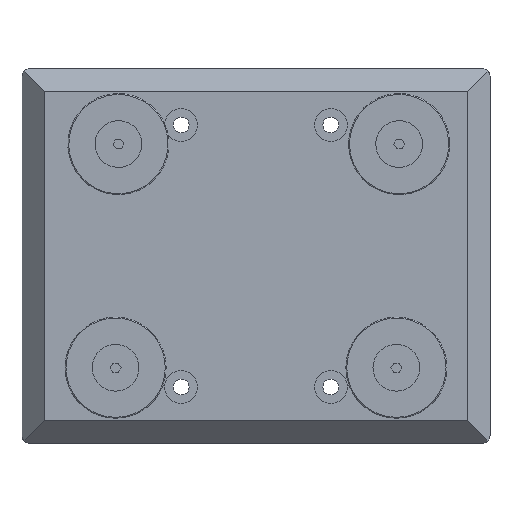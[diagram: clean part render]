
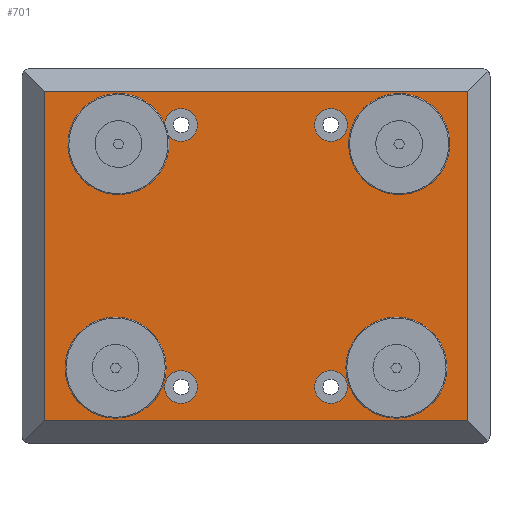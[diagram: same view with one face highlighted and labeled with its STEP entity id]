
A CAD part, front view. The second image highlights one B-rep face of the part: STEP entity #701.
In plain terms, the highlighted planar face has unit normal (0, -1, 0).
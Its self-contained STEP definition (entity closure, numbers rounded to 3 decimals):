
#701=ADVANCED_FACE('',(#1057,#1058,#1059,#1060,#1061,#1062,#1063,#1064,#1065),#1066,.F.);
#1057=FACE_BOUND('',#1727,.T.);
#1058=FACE_BOUND('',#1728,.T.);
#1059=FACE_BOUND('',#1729,.T.);
#1060=FACE_BOUND('',#1730,.T.);
#1061=FACE_BOUND('',#1731,.T.);
#1062=FACE_BOUND('',#1732,.T.);
#1063=FACE_BOUND('',#1733,.T.);
#1064=FACE_BOUND('',#1734,.T.);
#1065=FACE_OUTER_BOUND('',#1735,.T.);
#1066=PLANE('',#1736);
#1727=EDGE_LOOP('',(#2598));
#1728=EDGE_LOOP('',(#2599));
#1729=EDGE_LOOP('',(#2600));
#1730=EDGE_LOOP('',(#2601));
#1731=EDGE_LOOP('',(#2602));
#1732=EDGE_LOOP('',(#2603));
#1733=EDGE_LOOP('',(#2604));
#1734=EDGE_LOOP('',(#2605));
#1735=EDGE_LOOP('',(#2606,#2607,#2608,#2609));
#1736=AXIS2_PLACEMENT_3D('',#2610,#2611,#2612);
#2598=ORIENTED_EDGE('',*,*,#4206,.T.);
#2599=ORIENTED_EDGE('',*,*,#4210,.T.);
#2600=ORIENTED_EDGE('',*,*,#4213,.T.);
#2601=ORIENTED_EDGE('',*,*,#4216,.T.);
#2602=ORIENTED_EDGE('',*,*,#4221,.T.);
#2603=ORIENTED_EDGE('',*,*,#4126,.T.);
#2604=ORIENTED_EDGE('',*,*,#4127,.T.);
#2605=ORIENTED_EDGE('',*,*,#4204,.T.);
#2606=ORIENTED_EDGE('',*,*,#4199,.T.);
#2607=ORIENTED_EDGE('',*,*,#4194,.T.);
#2608=ORIENTED_EDGE('',*,*,#4217,.F.);
#2609=ORIENTED_EDGE('',*,*,#4197,.T.);
#2610=CARTESIAN_POINT('',(121.0,-22.0,96.0));
#2611=DIRECTION('',(0.,1.0,0.));
#2612=DIRECTION('',(1.0,0.,0.));
#4126=EDGE_CURVE('',#4646,#4646,#4647,.T.);
#4127=EDGE_CURVE('',#4648,#4648,#4649,.T.);
#4194=EDGE_CURVE('',#4764,#4762,#4765,.T.);
#4197=EDGE_CURVE('',#4769,#4767,#4770,.T.);
#4199=EDGE_CURVE('',#4767,#4764,#4772,.T.);
#4204=EDGE_CURVE('',#4779,#4779,#4780,.T.);
#4206=EDGE_CURVE('',#4783,#4783,#4784,.T.);
#4210=EDGE_CURVE('',#4791,#4791,#4792,.T.);
#4213=EDGE_CURVE('',#4797,#4797,#4798,.T.);
#4216=EDGE_CURVE('',#4803,#4803,#4804,.T.);
#4217=EDGE_CURVE('',#4769,#4762,#4805,.T.);
#4221=EDGE_CURVE('',#4810,#4810,#4811,.T.);
#4646=VERTEX_POINT('',#5524);
#4647=CIRCLE('',#5525,8.75);
#4648=VERTEX_POINT('',#5526);
#4649=CIRCLE('',#5527,8.75);
#4762=VERTEX_POINT('',#5678);
#4764=VERTEX_POINT('',#5681);
#4765=LINE('',#5682,#5683);
#4767=VERTEX_POINT('',#5686);
#4769=VERTEX_POINT('',#5689);
#4770=LINE('',#5690,#5691);
#4772=LINE('',#5694,#5695);
#4779=VERTEX_POINT('',#5704);
#4780=CIRCLE('',#5705,8.75);
#4783=VERTEX_POINT('',#5708);
#4784=CIRCLE('',#5709,7.0);
#4791=VERTEX_POINT('',#5716);
#4792=CIRCLE('',#5717,7.0);
#4797=VERTEX_POINT('',#5722);
#4798=CIRCLE('',#5723,7.0);
#4803=VERTEX_POINT('',#5728);
#4804=CIRCLE('',#5729,7.0);
#4805=LINE('',#5730,#5731);
#4810=VERTEX_POINT('',#5738);
#4811=CIRCLE('',#5739,8.75);
#5524=CARTESIAN_POINT('',(40.0,-22.0,-78.75));
#5525=AXIS2_PLACEMENT_3D('',#7222,#7223,#7224);
#5526=CARTESIAN_POINT('',(40.0,-22.0,61.25));
#5527=AXIS2_PLACEMENT_3D('',#7225,#7226,#7227);
#5678=CARTESIAN_POINT('',(113.0,-22.0,88.0));
#5681=CARTESIAN_POINT('',(113.0,-22.,-88.0));
#5682=CARTESIAN_POINT('',(113.0,-22.0,88.0));
#5683=VECTOR('',#7348,1.0);
#5686=CARTESIAN_POINT('',(-113.0,-22.,-88.0));
#5689=CARTESIAN_POINT('',(-113.0,-22.,88.0));
#5690=CARTESIAN_POINT('',(-113.0,-22.0,-88.0));
#5691=VECTOR('',#7351,1.0);
#5694=CARTESIAN_POINT('',(-218.415,-22.,-88.0));
#5695=VECTOR('',#7353,1.0);
#5704=CARTESIAN_POINT('',(-40.0,-22.0,61.25));
#5705=AXIS2_PLACEMENT_3D('',#7362,#7363,#7364);
#5708=CARTESIAN_POINT('',(75.0,-22.0,52.685));
#5709=AXIS2_PLACEMENT_3D('',#7368,#7369,#7370);
#5716=CARTESIAN_POINT('',(75.0,-22.0,-66.685));
#5717=AXIS2_PLACEMENT_3D('',#7380,#7381,#7382);
#5722=CARTESIAN_POINT('',(-75.0,-22.0,-66.685));
#5723=AXIS2_PLACEMENT_3D('',#7389,#7390,#7391);
#5728=CARTESIAN_POINT('',(-75.0,-22.0,52.685));
#5729=AXIS2_PLACEMENT_3D('',#7398,#7399,#7400);
#5730=CARTESIAN_POINT('',(-218.415,-22.,88.0));
#5731=VECTOR('',#7401,1.0);
#5738=CARTESIAN_POINT('',(-40.0,-22.0,-78.75));
#5739=AXIS2_PLACEMENT_3D('',#7407,#7408,#7409);
#7222=CARTESIAN_POINT('',(40.0,-22.0,-70.0));
#7223=DIRECTION('',(0.,1.0,0.));
#7224=DIRECTION('',(0.,0.,-1.0));
#7225=CARTESIAN_POINT('',(40.0,-22.0,70.0));
#7226=DIRECTION('',(0.,1.0,0.));
#7227=DIRECTION('',(0.,0.,-1.0));
#7348=DIRECTION('',(0.,0.0,1.0));
#7351=DIRECTION('',(0.,0.0,-1.0));
#7353=DIRECTION('',(1.0,0.,0.));
#7362=CARTESIAN_POINT('',(-40.0,-22.0,70.0));
#7363=DIRECTION('',(0.,1.0,0.));
#7364=DIRECTION('',(0.,0.,-1.0));
#7368=CARTESIAN_POINT('',(75.0,-22.0,59.685));
#7369=DIRECTION('',(0.,1.0,0.));
#7370=DIRECTION('',(0.,0.,-1.0));
#7380=CARTESIAN_POINT('',(75.0,-22.0,-59.685));
#7381=DIRECTION('',(0.,1.0,0.));
#7382=DIRECTION('',(0.,0.,-1.0));
#7389=CARTESIAN_POINT('',(-75.0,-22.0,-59.685));
#7390=DIRECTION('',(0.,1.0,0.));
#7391=DIRECTION('',(0.,0.,-1.0));
#7398=CARTESIAN_POINT('',(-75.0,-22.0,59.685));
#7399=DIRECTION('',(0.,1.0,0.));
#7400=DIRECTION('',(0.,0.,-1.0));
#7401=DIRECTION('',(1.0,0.,0.));
#7407=CARTESIAN_POINT('',(-40.0,-22.0,-70.0));
#7408=DIRECTION('',(0.,1.0,0.));
#7409=DIRECTION('',(0.,0.,-1.0));
